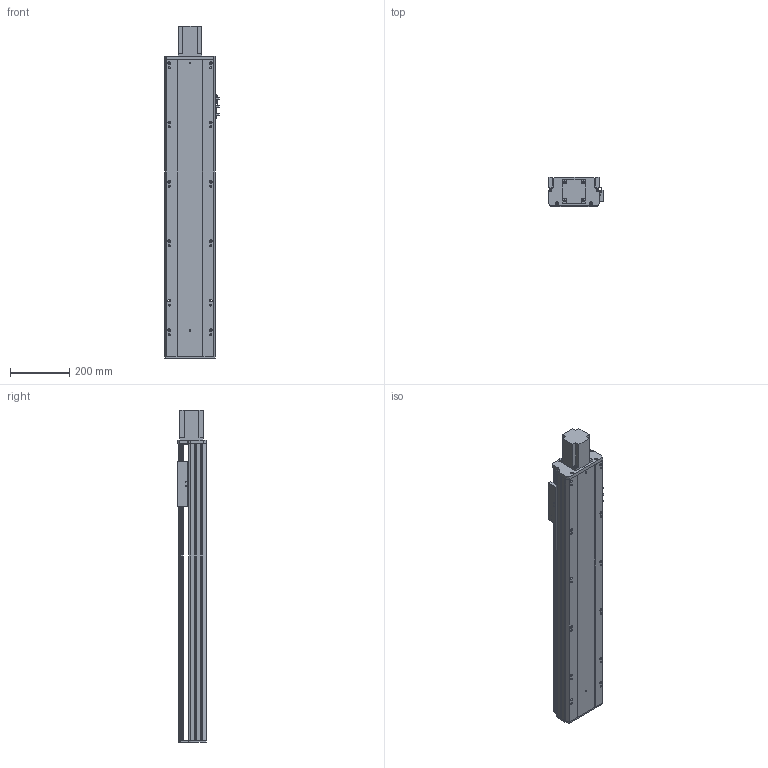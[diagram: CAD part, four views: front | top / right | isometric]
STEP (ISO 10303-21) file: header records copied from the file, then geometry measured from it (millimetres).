
FILE_DESCRIPTION (( 'STEP AP203' ), '1' );
FILE_NAME ('Y170-D10-S750-BD-P750W.STEP', '2020-01-22T06:56:15', ( '微软用户' ), ( '微软中国' ), 'SwSTEP 2.0', 'SolidWorks 2017', '' );
FILE_SCHEMA (( 'CONFIG_CONTROL_DESIGN' ));
Length unit declared in the file: millimetre
Products named in the file (10): 135-盓傅釱-FK15; 侂狟750W; Y170耜裔--準---; Y170-陔遴奻裔-BD; Y170--雄赽釱-梓--; YD-Y100-135-新外置传感挡片(通用）; Y170-D10-S750-BD-P750W; Y100-135俋离換覜ん; 170--掛极-BD; Y170-萇儂楊擘啣--
Assembly tree (11 placements, depth 2):
  Y170-D10-S750-BD-P750W
    YD-Y100-135-新外置传感挡片(通用）
    Y100-135俋离換覜ん  x3
    170--掛极-BD
    Y170-萇儂楊擘啣--
    135-盓傅釱-FK15
    侂狟750W
    Y170耜裔--準---
    Y170-陔遴奻裔-BD
    Y170--雄赽釱-梓--
Bounding box: 183.5 x 97 x 1118.5 mm (x, y, z)
Volume: 4919161.4 mm3; surface area: 1624695.3 mm2
Topology: 11 solids, 11 shells, 816 faces, 2307 edges, 1528 vertices
Faces by surface type: cylinder 426, plane 388, torus 2
Entity records: 26431 total; most frequent: CARTESIAN_POINT 4691, DIRECTION 4425, ORIENTED_EDGE 4278, EDGE_CURVE 2139, AXIS2_PLACEMENT_3D 1590, VERTEX_POINT 1416, LINE 1245, VECTOR 1245
